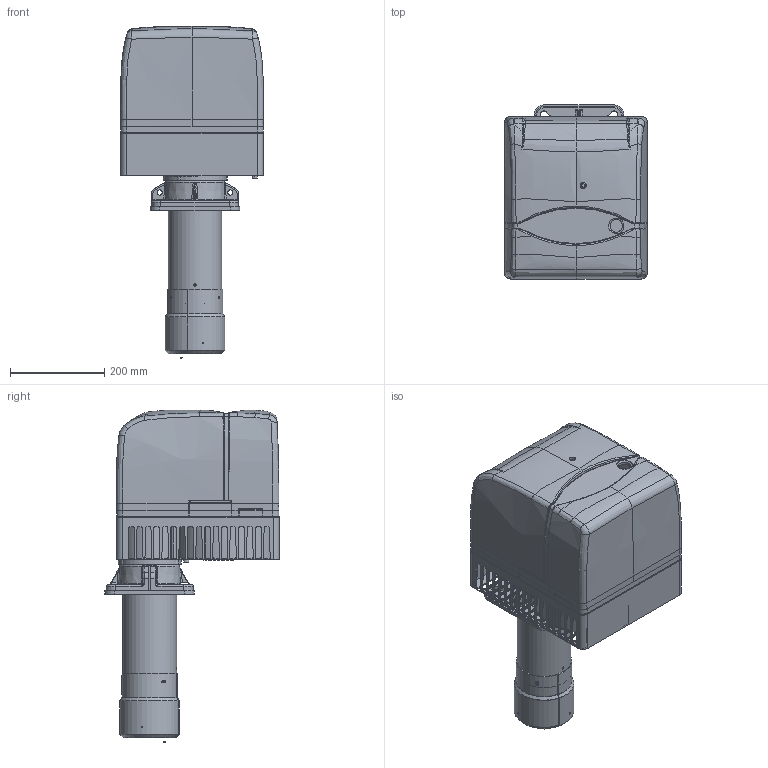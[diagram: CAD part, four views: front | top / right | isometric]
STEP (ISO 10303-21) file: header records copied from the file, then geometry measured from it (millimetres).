
FILE_DESCRIPTION (( 'STEP AP203' ), '1' );
FILE_NAME ('17100010-BTG20.STEP', '2018-07-02T14:43:17', ( '' ), ( '' ), 'SwSTEP 2.0', 'SolidWorks 2016', '' );
FILE_SCHEMA (( 'CONFIG_CONTROL_DESIGN' ));
Length unit declared in the file: millimetre
Products named in the file (2): 17100010-BTG20
Bounding box: 303.33 x 370 x 705.36 mm (x, y, z)
Surface area: 1375511.8 mm2 (no closed solid volume)
Topology: 0 solids, 47 shells, 988 faces, 4270 edges, 3090 vertices
Faces by surface type: plane 442, cylinder 294, bspline 212, cone 22, torus 18
Full cylindrical faces by diameter (mm): 3 x2, 3.3 x3, 3.45 x3, 3.7 x2, 4 x1, 4.8 x3, 5 x1, 10 x3, 11 x3, 11.2 x1, 65 x1, 90 x1, 110.3 x1, 114.3 x1, 115 x1
Entity records: 80858 total; most frequent: CARTESIAN_POINT 48076, ORIENTED_EDGE 6396, DIRECTION 6193, EDGE_CURVE 4220, VERTEX_POINT 3075, VECTOR 2171, LINE 2171, AXIS2_PLACEMENT_3D 2011
